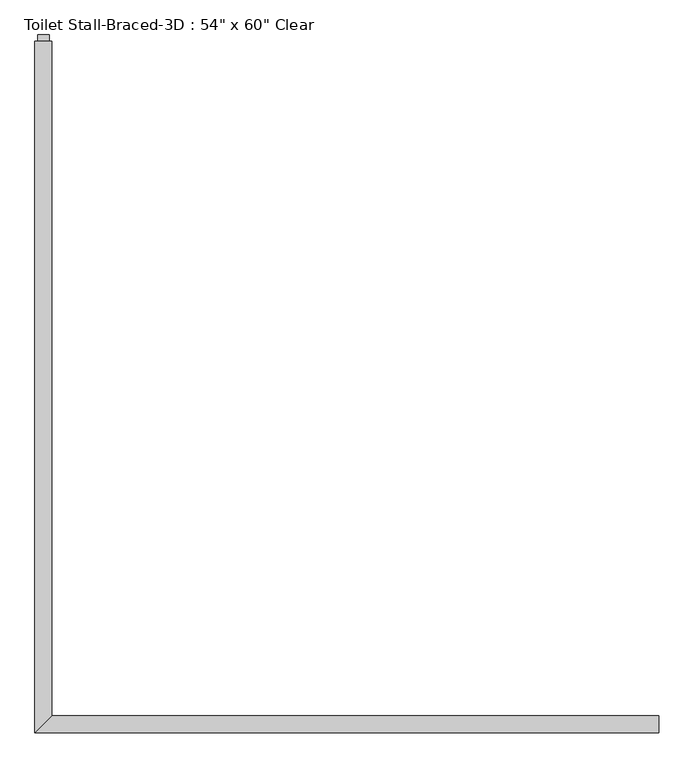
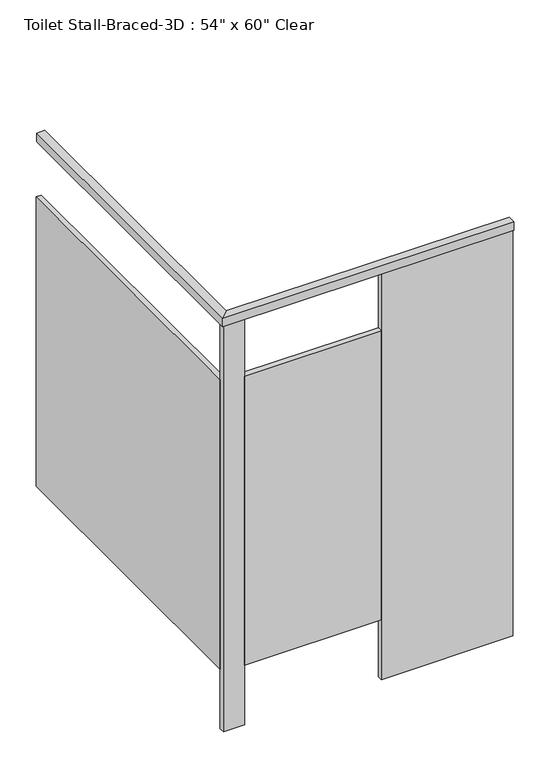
"""IFC4 building model written with IfcOpenShell, lengths in millimetres: proxy geometry."""

from ifc_helpers import new_model, si_unit, frame, origin, origin_with_axes, place, context, project, spatial, polyline, outline, extrude, faceted_brep, source, transform, mapped, element, save


def proxy_0c3c478f(model_context):
    return source(origin(), model_context, "Body", "SolidModel", [
        faceted_brep([(-306.2968462, -77.7875, 2108.2), (-306.2968462, -77.7875, 2070.1), (-312.6468462, -77.7875, 2070.1), (-312.6468462, -77.7875, 2114.55), (-274.5468462, -77.7875, 2114.55), (-274.5468462, -77.7875, 2070.1), (-280.8968462, -77.7875, 2070.1), (-280.8968462, -77.7875, 2108.2), (-280.8968462, -1601.7875, 2108.2), (-306.2968462, -1627.1875, 2108.2), (-280.8968462, -1601.7875, 2070.1), (-274.5468462, -1595.4375, 2070.1), (-274.5468462, -1595.4375, 2114.55), (-312.6468462, -1633.5375, 2114.55), (-312.6468462, -1633.5375, 2070.1), (-306.2968462, -1627.1875, 2070.1), (1090.7031538, -1627.1875, 2108.2), (1090.7031538, -1601.7875, 2108.2), (1090.7031538, -1601.7875, 2070.1), (1090.7031538, -1595.4375, 2070.1), (1090.7031538, -1595.4375, 2114.55), (1090.7031538, -1633.5375, 2114.55), (1090.7031538, -1633.5375, 2070.1), (1090.7031538, -1627.1875, 2070.1)], [[[0, 1, 2, 3, 4, 5, 6, 7]], [[7, 8, 9, 0]], [[6, 10, 8, 7]], [[5, 11, 10, 6]], [[4, 12, 11, 5]], [[3, 13, 12, 4]], [[2, 14, 13, 3]], [[1, 15, 14, 2]], [[0, 9, 15, 1]], [[16, 17, 18, 19, 20, 21, 22, 23]], [[8, 17, 16, 9]], [[10, 18, 17, 8]], [[11, 19, 18, 10]], [[12, 20, 19, 11]], [[13, 21, 20, 12]], [[14, 22, 21, 13]], [[15, 23, 22, 14]], [[9, 16, 23, 15]]]),
        extrude(outline(polyline([(455.7031538, -1627.1875), (-204.6968462, -1627.1875), (-204.6968462, -1601.7875), (455.7031538, -1601.7875), (455.7031538, -1627.1875)])), frame((0.0, 0.0, 304.8), z_axis=(0.0, 0.0, 1.0), x_axis=(1.0, 0.0, 0.0)), (0.0, 0.0, 1.0), 1473.2),
        extrude(outline(polyline([(-204.6968462, -1627.1875), (-306.2968462, -1627.1875), (-306.2968462, -1601.7875), (-204.6968462, -1601.7875), (-204.6968462, -1627.1875)])), origin_with_axes(), (0.0, 0.0, 1.0), 2108.2),
        extrude(outline(polyline([(1090.7031538, -1627.1875), (455.7031538, -1627.1875), (455.7031538, -1601.7875), (1090.7031538, -1601.7875), (1090.7031538, -1627.1875)])), origin_with_axes(), (0.0, 0.0, 1.0), 2108.2),
        extrude(outline(polyline([(-306.2968462, -1601.7875), (-306.2968462, -63.5), (-280.8968462, -63.5), (-280.8968462, -1601.7875), (-306.2968462, -1601.7875)])), frame((0.0, 0.0, 304.8), z_axis=(0.0, 0.0, 1.0), x_axis=(1.0, 0.0, 0.0)), (0.0, 0.0, 1.0), 1473.2),
    ])


if __name__ == "__main__":
    model = new_model("IFC4")
    model_context = context("Model", 3, world=origin())
    ifc_project = project(units=[si_unit("LENGTHUNIT", "METRE", prefix="MILLI")], contexts=[model_context])
    site = spatial("IfcSite", under=ifc_project)
    building = spatial("IfcBuilding", under=site)
    placement = place(None, origin())
    proxy_shape = proxy_0c3c478f(model_context)
    element("IfcBuildingElementProxy", 1, Name="Toilet Stall-Braced-3D : 54\" x 60\" Clear", ObjectType="Toilet Stall-Braced-3D : 54\" x 60\" Clear", at=placement, inside=building, context=model_context, shape_type="MappedRepresentation", body=[
        mapped(proxy_shape, transform((0.0, 0.0, 0.0), x_axis=(1.0, 0.0, 0.0), y_axis=(0.0, 1.0, 0.0), z_axis=(0.0, 0.0, 1.0))),
    ])
    save(model, "model.ifc")
